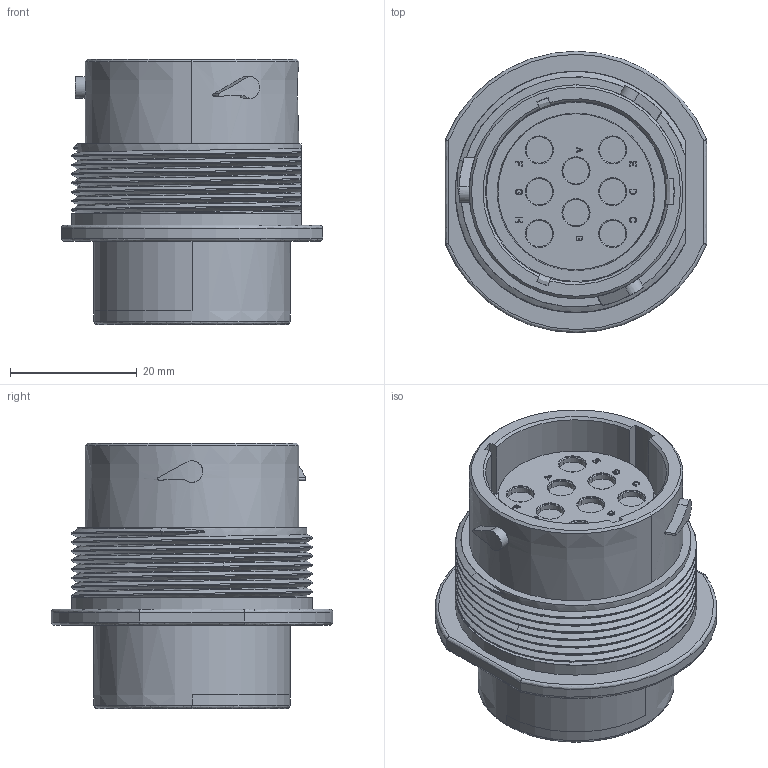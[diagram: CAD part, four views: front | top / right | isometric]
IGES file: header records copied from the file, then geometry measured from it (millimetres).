
Start section:  PTC IGES file: c-hdp24-18-8se-99-3d.igs
Global section: file name: c-hdp24-18-8se-99-3d.igs; native system: Pro/ENGINEER by Parametric Technology Corporation; preprocessor: 2011490; author: workeradm; organization: Unknown; units: millimetre
Bounding box: 41.27 x 44.45 x 41.86 mm (x, y, z)
Surface area: 11137 mm2 (no closed solid volume)
Topology: 0 solids, 0 shells, 445 faces, 2246 edges, 2246 vertices
Faces by surface type: bspline 288, revolution 157
